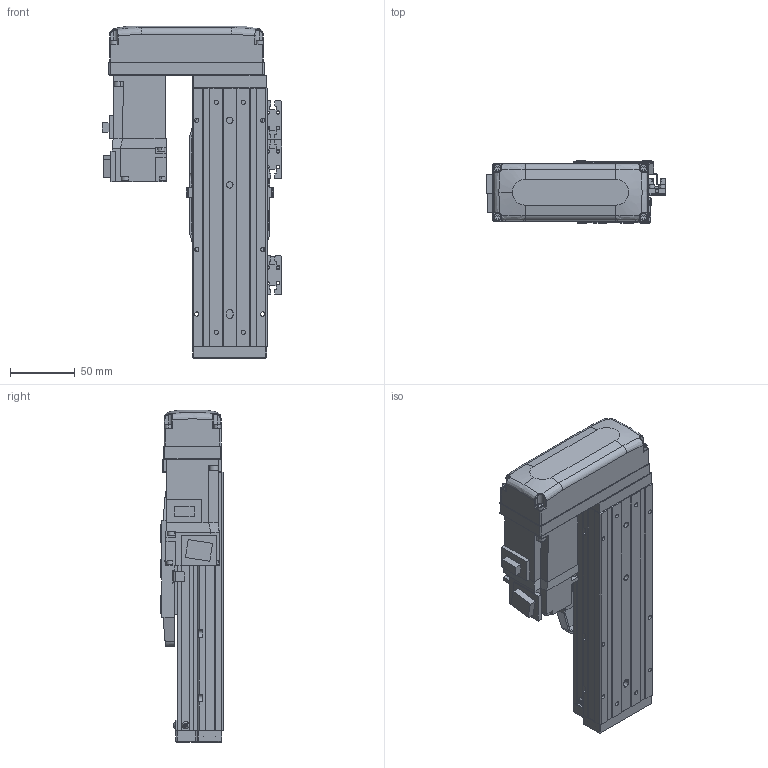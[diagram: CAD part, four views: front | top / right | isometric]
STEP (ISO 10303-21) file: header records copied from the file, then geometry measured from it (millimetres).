
FILE_DESCRIPTION (( 'STEP AP203' ), '1' );
FILE_NAME ('CTHA50-50-BR-M10-C4L.step', '2022-03-19T06:07:19', ( '微软用户' ), ( '微软中国' ), 'SwSTEP 2.0', 'SolidWorks 2020', '' );
FILE_SCHEMA (( 'CONFIG_CONTROL_DESIGN' ));
Length unit declared in the file: millimetre
Products named in the file (20): GBT77-2000 M3×3; CTHA50-002; CTHA50-50-BR-M10-C4L; GBT 70.1-M3℅6; CTHA50-030; KTHA50-001_200; CTHA60-017; CTHA50-031; KTHA50-004; GBT 70.1-M4×12; GBT 70.3-M3℅6; KTHA50-005; CTHA60-016; CTHA50-015-2_CTHA60-015-2; GB¨uT 70.2-M3¡Á6_M3¡Á6; CTHA60-021; CTHA60-033; EE_SX911P_R; HG-KR13（三菱）; GBT 70.1-M3×15
Assembly tree (60 placements, depth 2):
  CTHA50-50-BR-M10-C4L
    KTHA50-001_200
    KTHA50-004
    KTHA50-005
    GB¨uT 70.2-M3¡Á6_M3¡Á6  x10
    EE_SX911P_R  x3
    GBT77-2000 M3×3  x6
    GBT 70.1-M3℅6  x6
    CTHA60-017  x3
    GBT 70.1-M4×12  x10
    CTHA60-016  x2
    CTHA60-021  x2
    HG-KR13（三菱）
    CTHA50-002
    CTHA50-030  x2
    CTHA50-031
    GBT 70.3-M3℅6  x4
    CTHA50-015-2_CTHA60-015-2
    CTHA60-033
    GBT 70.1-M3×15  x4
Bounding box: 139.12 x 48 x 257 mm (x, y, z)
Volume: 727120.3 mm3; surface area: 194214.7 mm2
Topology: 62 solids, 62 shells, 2453 faces, 5799 edges, 3546 vertices
Faces by surface type: plane 1386, cylinder 564, cone 345, torus 108, bspline 26, sphere 24
Entity records: 40747 total; most frequent: CARTESIAN_POINT 7547, DIRECTION 6315, ORIENTED_EDGE 6106, EDGE_CURVE 3053, LINE 2127, VECTOR 2127, AXIS2_PLACEMENT_3D 2094, VERTEX_POINT 1920
